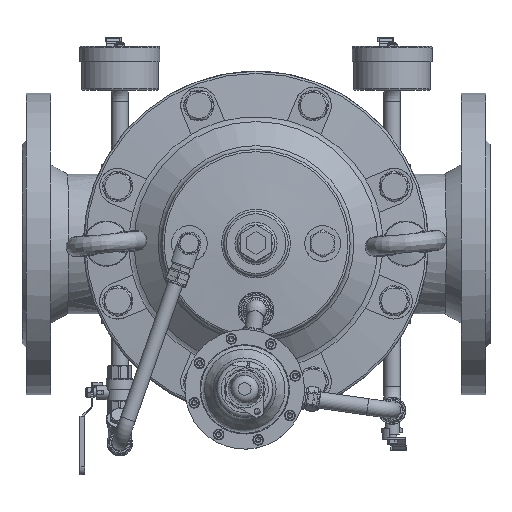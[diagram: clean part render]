
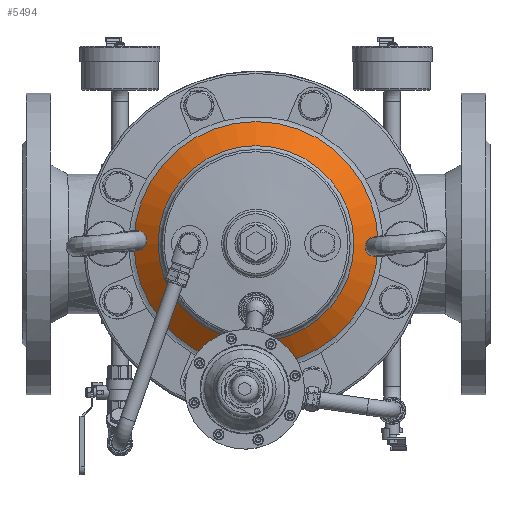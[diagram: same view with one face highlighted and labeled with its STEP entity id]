
A CAD part, top view. The second image highlights one B-rep face of the part: STEP entity #5494.
In plain terms, the highlighted conical face has half-angle 53.048 degrees and reference radius 72.865 mm.
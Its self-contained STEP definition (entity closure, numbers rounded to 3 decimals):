
#5494=ADVANCED_FACE('',(#18903,#18905),#18907,.T.);
#18903=FACE_OUTER_BOUND('',#18904,.T.);
#18904=EDGE_LOOP('',(#42334));
#18905=FACE_OUTER_BOUND('',#18906,.T.);
#18906=EDGE_LOOP('',(#42335));
#18907=CONICAL_SURFACE('',#18908,72.865,0.926);
#18908=AXIS2_PLACEMENT_3D('',#18909,#18910,#18911);
#18909=CARTESIAN_POINT('',(0.,-16.239,0.));
#18910=DIRECTION('',(0.,1.,0.));
#18911=DIRECTION('',(-1.,0.,0.));
#42334=ORIENTED_EDGE('',*,*,#49141,.F.);
#42335=ORIENTED_EDGE('',*,*,#49127,.F.);
#49127=EDGE_CURVE('',#53967,#53967,#53968,.T.);
#49141=EDGE_CURVE('',#53995,#53995,#53996,.F.);
#53967=VERTEX_POINT('',#78042);
#53968=CIRCLE('',#78043,64.859);
#53995=VERTEX_POINT('',#78112);
#53996=CIRCLE('',#78113,80.87);
#78042=CARTESIAN_POINT('',(64.859,-22.261,0.));
#78043=AXIS2_PLACEMENT_3D('',#78044,#78045,#78046);
#78044=CARTESIAN_POINT('',(0.,-22.261,0.));
#78045=DIRECTION('',(0.,-1.,0.));
#78046=DIRECTION('',(1.,0.,0.));
#78112=CARTESIAN_POINT('',(80.87,-10.217,0.));
#78113=AXIS2_PLACEMENT_3D('',#78114,#78115,#78116);
#78114=CARTESIAN_POINT('',(0.,-10.217,0.));
#78115=DIRECTION('',(0.,-1.,0.));
#78116=DIRECTION('',(1.,0.,0.));
